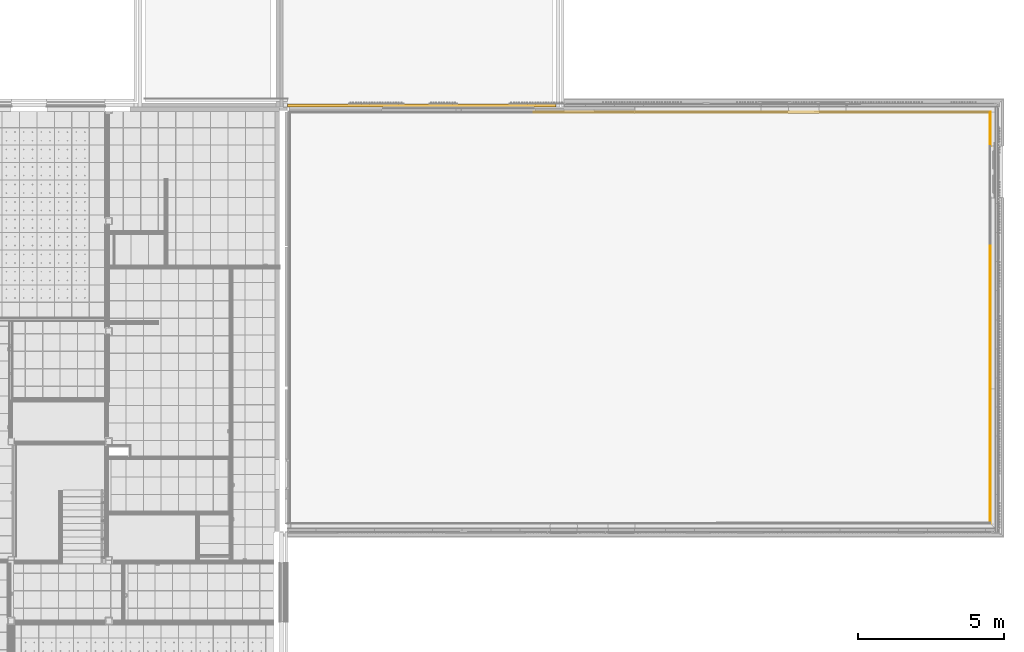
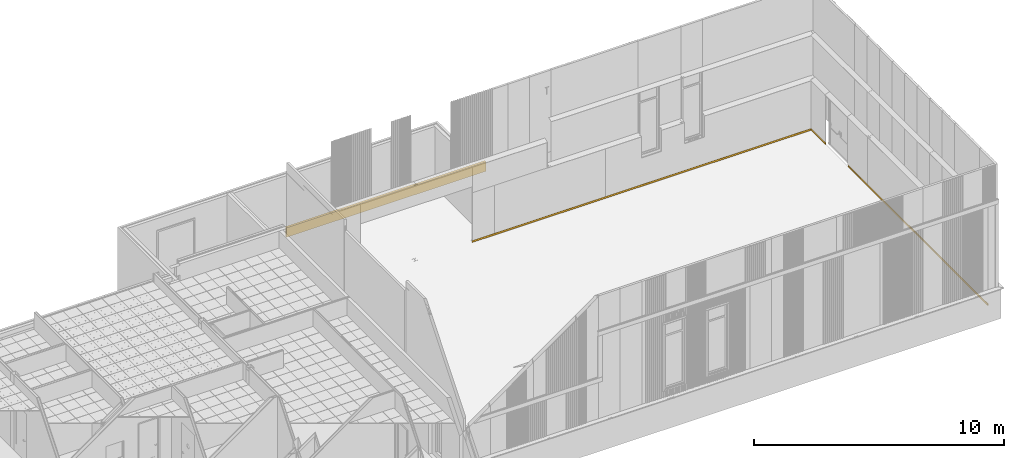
# One storey, part 121 of 338: 4 coverings.
"""IFC2X3 building model written with IfcOpenShell, lengths in millimetres."""

from ifc_helpers import new_model, entity, si_unit, converted_unit, derived_unit, money_unit, direction, frame, origin_with_axes, place, context, subcontext, project, spatial, faceted_brep, material, type_object, element, save


model = new_model("IFC2X3")

# Units and contexts
model_context = context("Model", 3, precision=0.01, world=origin_with_axes(), true_north=direction((0.0, 1.0)))
plan_context = context("Plan", 3, precision=0.01, world=origin_with_axes(), true_north=direction((0.0, 1.0)))
body_context = subcontext(model_context, "Body", "Model", "MODEL_VIEW")
ifc_project = project(units=[si_unit("LENGTHUNIT", "METRE", prefix="MILLI"), si_unit("AREAUNIT", "SQUARE_METRE"), si_unit("VOLUMEUNIT", "CUBIC_METRE"), converted_unit("PLANEANGLEUNIT", "DEGREE", entity("IfcPlaneAngleMeasure", 0.0174532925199), si_unit("PLANEANGLEUNIT", "RADIAN"), dimensions=[0, 0, 0, 0, 0, 0, 0]), money_unit("EUR"), converted_unit("TIMEUNIT", "Year", entity("IfcTimeMeasure", 31556926.0), si_unit("TIMEUNIT", "SECOND"), dimensions=[0, 0, 1, 0, 0, 0, 0]), si_unit("MASSUNIT", "GRAM", prefix="KILO"), si_unit("THERMODYNAMICTEMPERATUREUNIT", "DEGREE_CELSIUS"), si_unit("LUMINOUSINTENSITYUNIT", "LUMEN"), si_unit("ENERGYUNIT", "JOULE", prefix="MEGA"), derived_unit("THERMALCONDUCTANCEUNIT", [(si_unit("POWERUNIT", "WATT"), 1), (si_unit("LENGTHUNIT", "METRE"), -1), (si_unit("THERMODYNAMICTEMPERATUREUNIT", "KELVIN"), -1)]), derived_unit("SPECIFICHEATCAPACITYUNIT", [(si_unit("ENERGYUNIT", "JOULE"), 1), (si_unit("MASSUNIT", "GRAM", prefix="KILO"), -1), (si_unit("THERMODYNAMICTEMPERATUREUNIT", "KELVIN"), -1)]), derived_unit("MASSDENSITYUNIT", [(si_unit("MASSUNIT", "GRAM", prefix="KILO"), 1), (si_unit("VOLUMEUNIT", "CUBIC_METRE"), -1)])], contexts=[model_context, plan_context])

# Site, building, storey
site_placement = place(None, origin_with_axes())
site = spatial("IfcSite", under=ifc_project, at=site_placement, Name="Fortuinstraat Woensdrecht", CompositionType="ELEMENT")
building_placement = place(site_placement, origin_with_axes())
building = spatial("IfcBuilding", under=site, at=building_placement, Name="IKC Fortuna", CompositionType="ELEMENT")
storey_placement = place(building_placement, origin_with_axes())
storey = spatial("IfcBuildingStorey", under=building, at=storey_placement, Name="00 begane grond", CompositionType="ELEMENT", Elevation=0.0)

# Coverings
ifc_material_1 = material(Name="Isolatie - Kunststof hard")
covering_type_1 = type_object("IfcCoveringType", Name="Isolatie - Kunststof hard 100", PredefinedType="CLADDING")
covering_1_placement = place(storey_placement, frame((35113.4270571, 35496.2966283, 3100.0), z_axis=(0.0, 0.0, 1.0), x_axis=(1.0, 0.0, 0.0)))
element("IfcCovering", 1, at=covering_1_placement, inside=storey, type_object=covering_type_1, material=ifc_material_1, Name="21_Wandafwerking_Dakopstand", PredefinedType="CLADDING", context=body_context, shape_type="Brep", body=[
    faceted_brep([(0.0, 0.0, 464.704835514), (9220.00002789, 0.0, 464.704835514), (9220.00002789, 100.0, 464.704835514), (0.0, 100.0, 464.704835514), (0.0, 0.0, 0.0), (9220.00002789, 0.0, 0.0), (9220.00002789, 100.0, 0.0), (0.0, 100.0, 0.0)], [[[0, 1, 2, 3]], [[4, 5, 1, 0]], [[2, 1, 5, 6]], [[3, 2, 6, 7]], [[4, 0, 3, 7]], [[7, 6, 5, 4]]]),
])
ifc_material_2 = material(Name="Hout - Multiplex 90")
covering_type_2 = type_object("IfcCoveringType", Name="Hout - Multiplex 90 24 x 90", PredefinedType="CLADDING")
covering_2_placement = place(storey_placement, frame((59262.4270571, 32370.3126656, 0.0), z_axis=(0.0, 0.0, 1.0), x_axis=(-1.0, 0.0, 0.0)))
element("IfcCovering", 2, at=covering_2_placement, inside=storey, type_object=covering_type_2, material=ifc_material_2, Name="42_Wandafwerking_Plint", PredefinedType="CLADDING", context=body_context, shape_type="Brep", body=[
    faceted_brep([(24.0, 0.0, 0.0), (0.0, 0.0, 0.0), (0.0, 11203.0160373, 0.0), (24.0, 11179.0160373, 0.0), (24.0, 0.0, 90.0), (0.0, 0.0, 90.0), (0.0, 11203.0160373, 90.0), (24.0, 11179.0160373, 90.0)], [[[0, 1, 2, 3]], [[4, 5, 1, 0]], [[1, 5, 6, 2]], [[7, 3, 2, 6]], [[4, 0, 3, 7]], [[5, 4, 7, 6]]]),
])
covering_3_placement = place(storey_placement, frame((43573.4270571, 35325.2966282, 0.0), z_axis=(0.0, 0.0, 1.0), x_axis=(0.0, -1.0, 0.0)))
element("IfcCovering", 3, at=covering_3_placement, inside=storey, type_object=covering_type_2, material=ifc_material_2, Name="42_Wandafwerking_Plint", PredefinedType="CLADDING", context=body_context, shape_type="Brep", body=[
    faceted_brep([(24.0, 0.0, 0.0), (0.0, 0.0, 0.0), (0.0, 15689.0000001, 0.0), (24.0, 15665.0000001, 0.0), (24.0, 0.0, 90.0), (0.0, 0.0, 90.0), (0.0, 15689.0000001, 90.0), (24.0, 15665.0000001, 90.0)], [[[0, 1, 2, 3]], [[4, 5, 1, 0]], [[1, 5, 6, 2]], [[7, 3, 2, 6]], [[4, 0, 3, 7]], [[5, 4, 7, 6]]]),
])
covering_4_placement = place(storey_placement, frame((59262.4270571, 35325.2966282, 0.0), z_axis=(0.0, 0.0, 1.0), x_axis=(-1.0, 0.0, 0.0)))
element("IfcCovering", 4, at=covering_4_placement, inside=storey, type_object=covering_type_2, material=ifc_material_2, Name="42_Wandafwerking_Plint", PredefinedType="CLADDING", context=body_context, shape_type="Brep", body=[
    faceted_brep([(0.0, 0.0, 0.0), (0.0, 1175.0, 0.0), (24.0, 1175.0, 0.0), (24.0, 24.0, 0.0), (0.0, 0.0, 90.0), (0.0, 1175.0, 90.0), (24.0, 1175.0, 90.0), (24.0, 24.0, 90.0)], [[[0, 1, 2, 3]], [[4, 5, 1, 0]], [[2, 1, 5, 6]], [[3, 2, 6, 7]], [[4, 0, 3, 7]], [[7, 6, 5, 4]]]),
])

save(model, "model.ifc")
